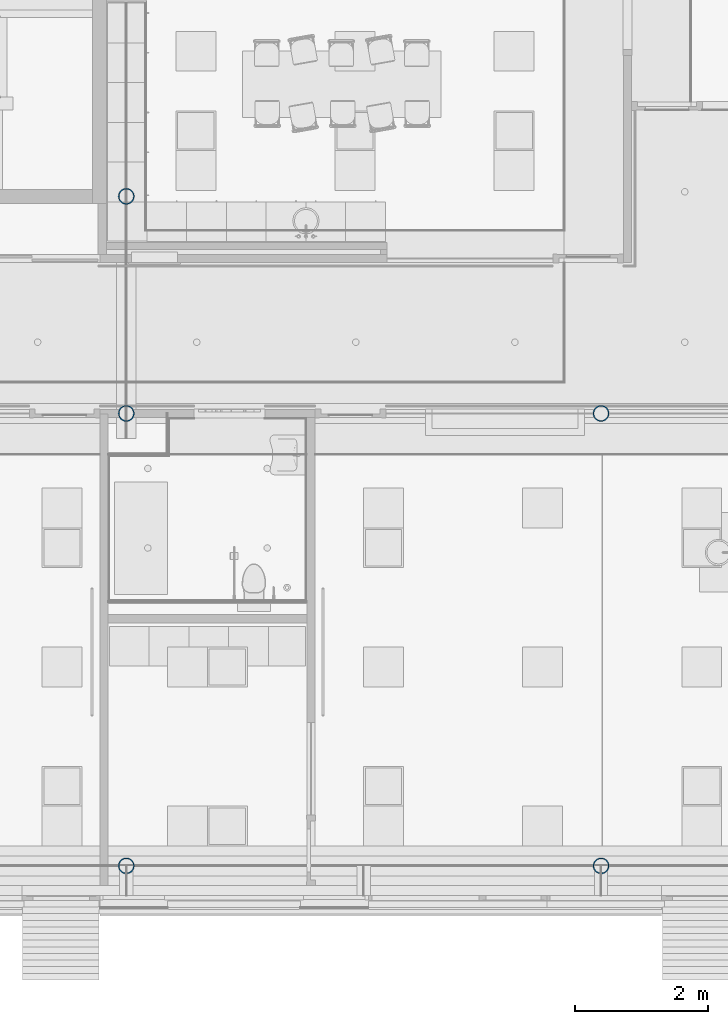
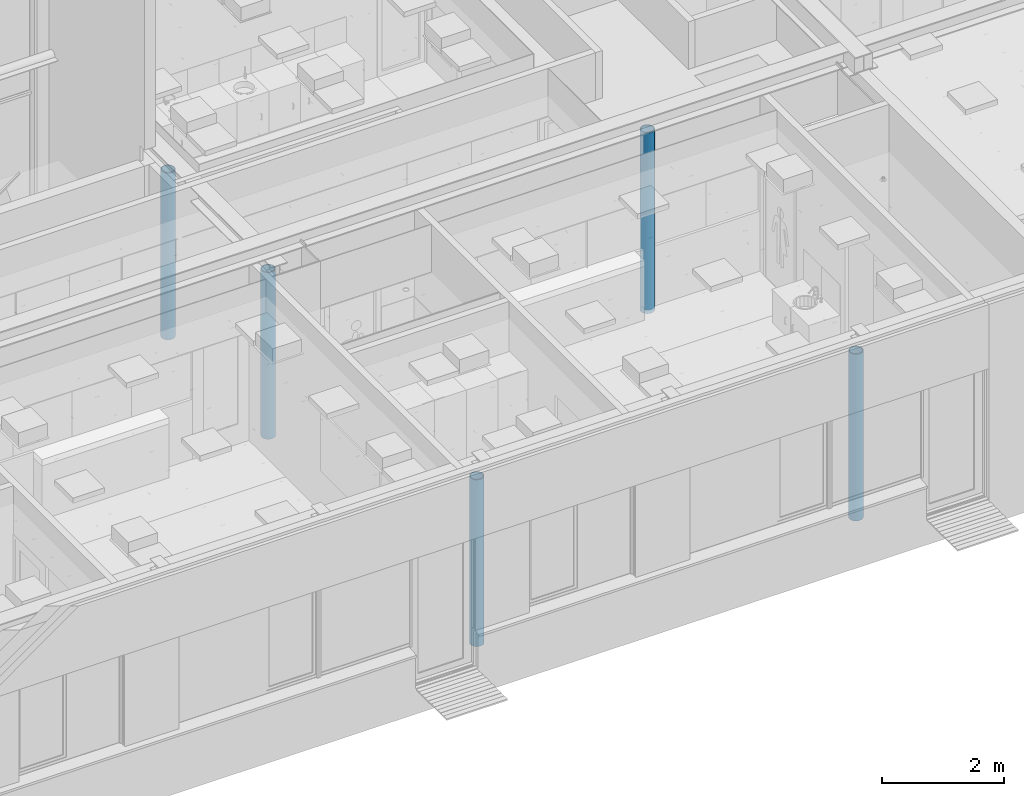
# One storey, part 13 of 347: 5 columns.
"""IFC2X3 building model written with IfcOpenShell, lengths in millimetres."""

from ifc_helpers import new_model, entity, si_unit, converted_unit, derived_unit, money_unit, direction, frame, origin_with_axes, place, context, subcontext, project, spatial, faceted_brep, material, type_object, element, save


model = new_model("IFC2X3")

# Units and contexts
model_context = context("Model", 3, precision=0.01, world=origin_with_axes(), true_north=direction((0.0, 1.0)))
plan_context = context("Plan", 3, precision=0.01, world=origin_with_axes(), true_north=direction((0.0, 1.0)))
body_context = subcontext(model_context, "Body", "Model", "MODEL_VIEW")
ifc_project = project(units=[si_unit("LENGTHUNIT", "METRE", prefix="MILLI"), si_unit("AREAUNIT", "SQUARE_METRE"), si_unit("VOLUMEUNIT", "CUBIC_METRE"), converted_unit("PLANEANGLEUNIT", "DEGREE", entity("IfcPlaneAngleMeasure", 0.0174532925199), si_unit("PLANEANGLEUNIT", "RADIAN"), dimensions=[0, 0, 0, 0, 0, 0, 0]), money_unit("EUR"), converted_unit("TIMEUNIT", "Year", entity("IfcTimeMeasure", 31556926.0), si_unit("TIMEUNIT", "SECOND"), dimensions=[0, 0, 1, 0, 0, 0, 0]), si_unit("MASSUNIT", "GRAM", prefix="KILO"), si_unit("THERMODYNAMICTEMPERATUREUNIT", "DEGREE_CELSIUS"), si_unit("LUMINOUSINTENSITYUNIT", "LUMEN"), si_unit("ENERGYUNIT", "JOULE", prefix="MEGA"), derived_unit("THERMALCONDUCTANCEUNIT", [(si_unit("POWERUNIT", "WATT"), 1), (si_unit("LENGTHUNIT", "METRE"), -1), (si_unit("THERMODYNAMICTEMPERATUREUNIT", "KELVIN"), -1)]), derived_unit("SPECIFICHEATCAPACITYUNIT", [(si_unit("ENERGYUNIT", "JOULE"), 1), (si_unit("MASSUNIT", "GRAM", prefix="KILO"), -1), (si_unit("THERMODYNAMICTEMPERATUREUNIT", "KELVIN"), -1)]), derived_unit("MASSDENSITYUNIT", [(si_unit("MASSUNIT", "GRAM", prefix="KILO"), 1), (si_unit("VOLUMEUNIT", "CUBIC_METRE"), -1)])], contexts=[model_context, plan_context])

# Site, building, storey
site_placement = place(None, origin_with_axes())
site = spatial("IfcSite", under=ifc_project, at=site_placement, Name="Site", CompositionType="ELEMENT")
building_placement = place(site_placement, origin_with_axes())
building = spatial("IfcBuilding", under=site, at=building_placement, Name="Naam gebouw", CompositionType="ELEMENT")
storey_placement = place(building_placement, origin_with_axes())
storey = spatial("IfcBuildingStorey", under=building, at=storey_placement, Name="begane grond", CompositionType="ELEMENT", Elevation=0.0)

# Columns
ifc_material = material(Name="Metaal - Staal C wit")
column_type = type_object("IfcColumnType", Name="Lucht D245", PredefinedType="COLUMN")
column_1_placement = place(storey_placement, frame((24575.0, 12125.0, -70.0), z_axis=(0.0, 0.0, 1.0), x_axis=(1.0, 0.0, 0.0)))
element("IfcColumn", 1, at=column_1_placement, inside=storey, type_object=column_type, material=ifc_material, Name="28_kolom ø 273mm", ObjectType="COLUMN", context=body_context, shape_type="Brep", body=[
    faceted_brep([(27.8124515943, 102.5, 1070.0), (27.4995235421, 102.629619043, 1070.0), (27.4995235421, 102.629619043, 0.0), (53.125, 92.0151991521, 0.0), (53.125, 92.0151991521, 3330.0), (27.4995235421, 102.629619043, 3330.0), (27.4995235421, 102.629619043, 1270.0), (27.8124515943, 102.5, 1270.0), (65.2067587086, 102.5, 1070.0), (53.0422871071, 110.143444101, 1070.0), (27.2031841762, 119.184937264, 1070.0), (0.0, 122.25, 1070.0), (-27.2031841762, 119.184937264, 1070.0), (-53.0422871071, 110.143444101, 1070.0), (-65.2067587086, 102.5, 1070.0), (-27.8124515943, 102.5, 1070.0), (-27.4995235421, 102.629619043, 1070.0), (0.0, 106.25, 1070.0), (0.0, 106.25, 0.0), (-119.184937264, -27.2031841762, 0.0), (-122.25, 0.0, 0.0), (-119.184937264, 27.2031841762, 0.0), (-110.143444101, 53.0422871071, 0.0), (-95.5788987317, 76.2216282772, 0.0), (-76.2216282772, 95.5788987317, 0.0), (-53.0422871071, 110.143444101, 0.0), (-27.2031841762, 119.184937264, 0.0), (0.0, 122.25, 0.0), (27.2031841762, 119.184937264, 0.0), (53.0422871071, 110.143444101, 0.0), (76.2216282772, 95.5788987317, 0.0), (95.5788987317, 76.2216282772, 0.0), (110.143444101, 53.0422871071, 0.0), (119.184937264, 27.2031841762, 0.0), (122.25, 0.0, 0.0), (119.184937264, -27.2031841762, 0.0), (110.143444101, -53.0422871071, 0.0), (95.5788987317, -76.2216282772, 0.0), (76.2216282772, -95.5788987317, 0.0), (53.0422871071, -110.143444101, 0.0), (27.2031841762, -119.184937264, 0.0), (0.0, -122.25, 0.0), (-27.2031841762, -119.184937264, 0.0), (-53.0422871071, -110.143444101, 0.0), (-76.2216282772, -95.5788987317, 0.0), (-95.5788987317, -76.2216282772, 0.0), (-110.143444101, -53.0422871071, 0.0), (-102.629619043, 27.4995235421, 0.0), (-106.25, 0.0, 0.0), (-102.629619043, -27.4995235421, 0.0), (-92.0151991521, -53.125, 0.0), (-75.1300955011, -75.1300955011, 0.0), (-53.125, -92.0151991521, 0.0), (-27.4995235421, -102.629619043, 0.0), (0.0, -106.25, 0.0), (27.4995235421, -102.629619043, 0.0), (53.125, -92.0151991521, 0.0), (75.1300955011, -75.1300955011, 0.0), (92.0151991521, -53.125, 0.0), (102.629619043, -27.4995235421, 0.0), (106.25, 0.0, 0.0), (102.629619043, 27.4995235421, 0.0), (92.0151991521, 53.125, 0.0), (75.1300955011, 75.1300955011, 0.0), (-27.4995235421, 102.629619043, 0.0), (-53.125, 92.0151991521, 0.0), (-75.1300955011, 75.1300955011, 0.0), (-92.0151991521, 53.125, 0.0), (75.1300955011, 75.1300955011, 3330.0), (-119.184937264, 27.2031841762, 3330.0), (-122.25, 0.0, 3330.0), (-119.184937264, -27.2031841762, 3330.0), (-110.143444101, -53.0422871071, 3330.0), (-95.5788987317, -76.2216282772, 3330.0), (-76.2216282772, -95.5788987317, 3330.0), (-53.0422871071, -110.143444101, 3330.0), (-27.2031841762, -119.184937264, 3330.0), (0.0, -122.25, 3330.0), (27.2031841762, -119.184937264, 3330.0), (53.0422871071, -110.143444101, 3330.0), (76.2216282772, -95.5788987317, 3330.0), (95.5788987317, -76.2216282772, 3330.0), (110.143444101, -53.0422871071, 3330.0), (119.184937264, -27.2031841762, 3330.0), (122.25, 0.0, 3330.0), (119.184937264, 27.2031841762, 3330.0), (110.143444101, 53.0422871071, 3330.0), (95.5788987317, 76.2216282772, 3330.0), (76.2216282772, 95.5788987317, 3330.0), (53.0422871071, 110.143444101, 3330.0), (27.2031841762, 119.184937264, 3330.0), (0.0, 122.25, 3330.0), (-27.2031841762, 119.184937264, 3330.0), (-53.0422871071, 110.143444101, 3330.0), (-76.2216282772, 95.5788987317, 3330.0), (-95.5788987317, 76.2216282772, 3330.0), (-110.143444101, 53.0422871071, 3330.0), (-102.629619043, -27.4995235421, 3330.0), (-106.25, 0.0, 3330.0), (-102.629619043, 27.4995235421, 3330.0), (-92.0151991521, 53.125, 3330.0), (-75.1300955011, 75.1300955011, 3330.0), (-53.125, 92.0151991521, 3330.0), (-27.4995235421, 102.629619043, 3330.0), (0.0, 106.25, 3330.0), (92.0151991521, 53.125, 3330.0), (102.629619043, 27.4995235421, 3330.0), (106.25, 0.0, 3330.0), (102.629619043, -27.4995235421, 3330.0), (92.0151991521, -53.125, 3330.0), (75.1300955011, -75.1300955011, 3330.0), (53.125, -92.0151991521, 3330.0), (27.4995235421, -102.629619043, 3330.0), (0.0, -106.25, 3330.0), (-27.4995235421, -102.629619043, 3330.0), (-53.125, -92.0151991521, 3330.0), (-75.1300955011, -75.1300955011, 3330.0), (-92.0151991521, -53.125, 3330.0), (0.0, 106.25, 1270.0), (53.0422871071, 110.143444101, 1270.0), (65.2067587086, 102.5, 1270.0), (-27.4995235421, 102.629619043, 1270.0), (-27.8124515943, 102.5, 1270.0), (-65.2067587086, 102.5, 1270.0), (-53.0422871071, 110.143444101, 1270.0), (-27.2031841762, 119.184937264, 1270.0), (0.0, 122.25, 1270.0), (27.2031841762, 119.184937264, 1270.0)], [[[0, 1, 2, 3, 4, 5, 6, 7]], [[8, 9, 10, 11, 12, 13, 14, 15, 16, 17, 1, 0]], [[1, 17, 18, 2]], [[19, 20, 21, 22, 23, 24, 25, 26, 27, 28, 29, 30, 31, 32, 33, 34, 35, 36, 37, 38, 39, 40, 41, 42, 43, 44, 45, 46], [47, 48, 49, 50, 51, 52, 53, 54, 55, 56, 57, 58, 59, 60, 61, 62, 63, 3, 2, 18, 64, 65, 66, 67]], [[4, 3, 63, 68]], [[69, 70, 71, 72, 73, 74, 75, 76, 77, 78, 79, 80, 81, 82, 83, 84, 85, 86, 87, 88, 89, 90, 91, 92, 93, 94, 95, 96], [97, 98, 99, 100, 101, 102, 103, 104, 5, 4, 68, 105, 106, 107, 108, 109, 110, 111, 112, 113, 114, 115, 116, 117]], [[118, 6, 5, 104]], [[119, 120, 7, 6, 118, 121, 122, 123, 124, 125, 126, 127]], [[120, 8, 0, 7]], [[9, 8, 120, 119, 89, 88, 30, 29]], [[10, 9, 29, 28]], [[11, 10, 28, 27]], [[12, 11, 27, 26]], [[13, 12, 26, 25]], [[14, 13, 25, 24, 94, 93, 124, 123]], [[122, 15, 14, 123]], [[122, 121, 103, 102, 65, 64, 16, 15]], [[17, 16, 64, 18]], [[70, 20, 19, 71]], [[69, 21, 20, 70]], [[96, 22, 21, 69]], [[95, 23, 22, 96]], [[94, 24, 23, 95]], [[87, 31, 30, 88]], [[86, 32, 31, 87]], [[85, 33, 32, 86]], [[84, 34, 33, 85]], [[83, 35, 34, 84]], [[82, 36, 35, 83]], [[81, 37, 36, 82]], [[80, 38, 37, 81]], [[79, 39, 38, 80]], [[78, 40, 39, 79]], [[77, 41, 40, 78]], [[76, 42, 41, 77]], [[75, 43, 42, 76]], [[74, 44, 43, 75]], [[73, 45, 44, 74]], [[72, 46, 45, 73]], [[71, 19, 46, 72]], [[98, 48, 47, 99]], [[97, 49, 48, 98]], [[117, 50, 49, 97]], [[116, 51, 50, 117]], [[115, 52, 51, 116]], [[114, 53, 52, 115]], [[113, 54, 53, 114]], [[112, 55, 54, 113]], [[111, 56, 55, 112]], [[110, 57, 56, 111]], [[109, 58, 57, 110]], [[108, 59, 58, 109]], [[107, 60, 59, 108]], [[106, 61, 60, 107]], [[105, 62, 61, 106]], [[68, 63, 62, 105]], [[101, 66, 65, 102]], [[100, 67, 66, 101]], [[99, 47, 67, 100]], [[119, 127, 90, 89]], [[127, 126, 91, 90]], [[126, 125, 92, 91]], [[125, 124, 93, 92]], [[121, 118, 104, 103]]]),
])
column_2_placement = place(storey_placement, frame((31737.5, 12125.0, -70.0), z_axis=(0.0, 0.0, 1.0), x_axis=(1.0, 0.0, 0.0)))
element("IfcColumn", 2, at=column_2_placement, inside=storey, type_object=column_type, material=ifc_material, Name="28_kolom ø 273mm", ObjectType="COLUMN", context=body_context, shape_type="Brep", body=[
    faceted_brep([(27.8124515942, 102.5, 1070.0), (27.4995235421, 102.629619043, 1070.0), (27.4995235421, 102.629619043, 0.0), (53.125, 92.0151991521, 0.0), (53.125, 92.0151991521, 3610.0), (27.4995235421, 102.629619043, 3610.0), (27.4995235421, 102.629619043, 1270.0), (27.8124515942, 102.5, 1270.0), (65.2067587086, 102.5, 1070.0), (53.0422871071, 110.143444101, 1070.0), (27.2031841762, 119.184937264, 1070.0), (0.0, 122.25, 1070.0), (-27.2031841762, 119.184937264, 1070.0), (-53.0422871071, 110.143444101, 1070.0), (-65.2067587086, 102.5, 1070.0), (-27.8124515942, 102.5, 1070.0), (-27.4995235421, 102.629619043, 1070.0), (0.0, 106.25, 1070.0), (0.0, 106.25, 0.0), (110.143444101, 53.0422871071, 0.0), (119.184937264, 27.2031841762, 0.0), (122.25, 0.0, 0.0), (119.184937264, -27.2031841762, 0.0), (110.143444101, -53.0422871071, 0.0), (95.5788987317, -76.2216282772, 0.0), (76.2216282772, -95.5788987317, 0.0), (53.0422871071, -110.143444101, 0.0), (27.2031841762, -119.184937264, 0.0), (0.0, -122.25, 0.0), (-27.2031841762, -119.184937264, 0.0), (-53.0422871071, -110.143444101, 0.0), (-76.2216282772, -95.5788987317, 0.0), (-95.5788987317, -76.2216282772, 0.0), (-110.143444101, -53.0422871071, 0.0), (-119.184937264, -27.2031841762, 0.0), (-122.25, 0.0, 0.0), (-119.184937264, 27.2031841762, 0.0), (-110.143444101, 53.0422871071, 0.0), (-95.5788987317, 76.2216282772, 0.0), (-76.2216282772, 95.5788987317, 0.0), (-53.0422871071, 110.143444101, 0.0), (-27.2031841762, 119.184937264, 0.0), (0.0, 122.25, 0.0), (27.2031841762, 119.184937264, 0.0), (53.0422871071, 110.143444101, 0.0), (76.2216282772, 95.5788987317, 0.0), (95.5788987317, 76.2216282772, 0.0), (92.0151991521, -53.125, 0.0), (102.629619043, -27.4995235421, 0.0), (106.25, 0.0, 0.0), (102.629619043, 27.4995235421, 0.0), (92.0151991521, 53.125, 0.0), (75.1300955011, 75.1300955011, 0.0), (-27.4995235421, 102.629619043, 0.0), (-53.125, 92.0151991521, 0.0), (-75.1300955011, 75.1300955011, 0.0), (-92.0151991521, 53.125, 0.0), (-102.629619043, 27.4995235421, 0.0), (-106.25, 0.0, 0.0), (-102.629619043, -27.4995235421, 0.0), (-92.0151991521, -53.125, 0.0), (-75.1300955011, -75.1300955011, 0.0), (-53.125, -92.0151991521, 0.0), (-27.4995235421, -102.629619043, 0.0), (0.0, -106.25, 0.0), (27.4995235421, -102.629619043, 0.0), (53.125, -92.0151991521, 0.0), (75.1300955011, -75.1300955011, 0.0), (75.1300955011, 75.1300955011, 3610.0), (122.25, 0.0, 3610.0), (119.184937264, 27.2031841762, 3610.0), (110.143444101, 53.0422871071, 3610.0), (95.5788987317, 76.2216282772, 3610.0), (76.2216282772, 95.5788987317, 3610.0), (53.0422871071, 110.143444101, 3610.0), (27.2031841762, 119.184937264, 3610.0), (0.0, 122.25, 3610.0), (-27.2031841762, 119.184937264, 3610.0), (-53.0422871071, 110.143444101, 3610.0), (-76.2216282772, 95.5788987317, 3610.0), (-95.5788987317, 76.2216282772, 3610.0), (-110.143444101, 53.0422871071, 3610.0), (-119.184937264, 27.2031841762, 3610.0), (-122.25, 0.0, 3610.0), (-119.184937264, -27.2031841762, 3610.0), (-110.143444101, -53.0422871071, 3610.0), (-95.5788987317, -76.2216282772, 3610.0), (-76.2216282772, -95.5788987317, 3610.0), (-53.0422871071, -110.143444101, 3610.0), (-27.2031841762, -119.184937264, 3610.0), (0.0, -122.25, 3610.0), (27.2031841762, -119.184937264, 3610.0), (53.0422871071, -110.143444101, 3610.0), (76.2216282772, -95.5788987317, 3610.0), (95.5788987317, -76.2216282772, 3610.0), (110.143444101, -53.0422871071, 3610.0), (119.184937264, -27.2031841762, 3610.0), (106.25, 0.0, 3610.0), (102.629619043, -27.4995235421, 3610.0), (92.0151991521, -53.125, 3610.0), (75.1300955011, -75.1300955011, 3610.0), (53.125, -92.0151991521, 3610.0), (27.4995235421, -102.629619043, 3610.0), (0.0, -106.25, 3610.0), (-27.4995235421, -102.629619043, 3610.0), (-53.125, -92.0151991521, 3610.0), (-75.1300955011, -75.1300955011, 3610.0), (-92.0151991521, -53.125, 3610.0), (-102.629619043, -27.4995235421, 3610.0), (-106.25, 0.0, 3610.0), (-102.629619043, 27.4995235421, 3610.0), (-92.0151991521, 53.125, 3610.0), (-75.1300955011, 75.1300955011, 3610.0), (-53.125, 92.0151991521, 3610.0), (-27.4995235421, 102.629619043, 3610.0), (0.0, 106.25, 3610.0), (92.0151991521, 53.125, 3610.0), (102.629619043, 27.4995235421, 3610.0), (0.0, 106.25, 1270.0), (53.0422871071, 110.143444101, 1270.0), (65.2067587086, 102.5, 1270.0), (-27.4995235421, 102.629619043, 1270.0), (-27.8124515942, 102.5, 1270.0), (-65.2067587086, 102.5, 1270.0), (-53.0422871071, 110.143444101, 1270.0), (-27.2031841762, 119.184937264, 1270.0), (0.0, 122.25, 1270.0), (27.2031841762, 119.184937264, 1270.0)], [[[0, 1, 2, 3, 4, 5, 6, 7]], [[8, 9, 10, 11, 12, 13, 14, 15, 16, 17, 1, 0]], [[1, 17, 18, 2]], [[19, 20, 21, 22, 23, 24, 25, 26, 27, 28, 29, 30, 31, 32, 33, 34, 35, 36, 37, 38, 39, 40, 41, 42, 43, 44, 45, 46], [47, 48, 49, 50, 51, 52, 3, 2, 18, 53, 54, 55, 56, 57, 58, 59, 60, 61, 62, 63, 64, 65, 66, 67]], [[4, 3, 52, 68]], [[69, 70, 71, 72, 73, 74, 75, 76, 77, 78, 79, 80, 81, 82, 83, 84, 85, 86, 87, 88, 89, 90, 91, 92, 93, 94, 95, 96], [97, 98, 99, 100, 101, 102, 103, 104, 105, 106, 107, 108, 109, 110, 111, 112, 113, 114, 115, 5, 4, 68, 116, 117]], [[118, 6, 5, 115]], [[119, 120, 7, 6, 118, 121, 122, 123, 124, 125, 126, 127]], [[120, 8, 0, 7]], [[9, 8, 120, 119, 74, 73, 45, 44]], [[10, 9, 44, 43]], [[11, 10, 43, 42]], [[12, 11, 42, 41]], [[13, 12, 41, 40]], [[14, 13, 40, 39, 79, 78, 124, 123]], [[122, 15, 14, 123]], [[122, 121, 114, 113, 54, 53, 16, 15]], [[17, 16, 53, 18]], [[70, 20, 19, 71]], [[69, 21, 20, 70]], [[96, 22, 21, 69]], [[95, 23, 22, 96]], [[94, 24, 23, 95]], [[93, 25, 24, 94]], [[92, 26, 25, 93]], [[91, 27, 26, 92]], [[90, 28, 27, 91]], [[89, 29, 28, 90]], [[88, 30, 29, 89]], [[87, 31, 30, 88]], [[86, 32, 31, 87]], [[85, 33, 32, 86]], [[84, 34, 33, 85]], [[83, 35, 34, 84]], [[82, 36, 35, 83]], [[81, 37, 36, 82]], [[80, 38, 37, 81]], [[79, 39, 38, 80]], [[72, 46, 45, 73]], [[71, 19, 46, 72]], [[98, 48, 47, 99]], [[97, 49, 48, 98]], [[117, 50, 49, 97]], [[116, 51, 50, 117]], [[68, 52, 51, 116]], [[112, 55, 54, 113]], [[111, 56, 55, 112]], [[110, 57, 56, 111]], [[109, 58, 57, 110]], [[108, 59, 58, 109]], [[107, 60, 59, 108]], [[106, 61, 60, 107]], [[105, 62, 61, 106]], [[104, 63, 62, 105]], [[103, 64, 63, 104]], [[102, 65, 64, 103]], [[101, 66, 65, 102]], [[100, 67, 66, 101]], [[99, 47, 67, 100]], [[119, 127, 75, 74]], [[127, 126, 76, 75]], [[126, 125, 77, 76]], [[125, 124, 78, 77]], [[121, 118, 115, 114]]]),
])
column_3_placement = place(storey_placement, frame((31737.5, 5300.0, -70.0), z_axis=(0.0, 0.0, 1.0), x_axis=(1.0, 0.0, 0.0)))
element("IfcColumn", 3, at=column_3_placement, inside=storey, type_object=column_type, material=ifc_material, Name="28_kolom ø 273mm", ObjectType="COLUMN", context=body_context, shape_type="Brep", body=[
    faceted_brep([(119.184937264, 27.2031841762, 0.0), (110.143444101, 53.0422871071, 0.0), (110.143444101, 53.0422871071, 3330.0), (119.184937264, 27.2031841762, 3330.0), (122.25, 0.0, 0.0), (119.184937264, -27.2031841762, 0.0), (110.143444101, -53.0422871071, 0.0), (95.5788987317, -76.2216282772, 0.0), (76.2216282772, -95.5788987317, 0.0), (53.0422871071, -110.143444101, 0.0), (27.2031841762, -119.184937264, 0.0), (0.0, -122.25, 0.0), (-27.2031841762, -119.184937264, 0.0), (-53.0422871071, -110.143444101, 0.0), (-76.2216282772, -95.5788987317, 0.0), (-95.5788987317, -76.2216282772, 0.0), (-110.143444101, -53.0422871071, 0.0), (-119.184937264, -27.2031841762, 0.0), (-122.25, 0.0, 0.0), (-119.184937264, 27.2031841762, 0.0), (-110.143444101, 53.0422871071, 0.0), (-95.5788987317, 76.2216282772, 0.0), (-76.2216282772, 95.5788987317, 0.0), (-53.0422871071, 110.143444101, 0.0), (-27.2031841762, 119.184937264, 0.0), (0.0, 122.25, 0.0), (27.2031841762, 119.184937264, 0.0), (53.0422871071, 110.143444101, 0.0), (76.2216282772, 95.5788987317, 0.0), (95.5788987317, 76.2216282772, 0.0), (102.629619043, -27.4995235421, 0.0), (106.25, 0.0, 0.0), (102.629619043, 27.4995235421, 0.0), (92.0151991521, 53.125, 0.0), (75.1300955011, 75.1300955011, 0.0), (53.125, 92.0151991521, 0.0), (27.4995235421, 102.629619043, 0.0), (0.0, 106.25, 0.0), (-27.4995235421, 102.629619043, 0.0), (-53.125, 92.0151991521, 0.0), (-75.1300955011, 75.1300955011, 0.0), (-92.0151991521, 53.125, 0.0), (-102.629619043, 27.4995235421, 0.0), (-106.25, 0.0, 0.0), (-102.629619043, -27.4995235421, 0.0), (-92.0151991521, -53.125, 0.0), (-75.1300955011, -75.1300955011, 0.0), (-53.125, -92.0151991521, 0.0), (-27.4995235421, -102.629619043, 0.0), (0.0, -106.25, 0.0), (27.4995235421, -102.629619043, 0.0), (53.125, -92.0151991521, 0.0), (75.1300955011, -75.1300955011, 0.0), (92.0151991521, -53.125, 0.0), (95.5788987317, 76.2216282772, 3330.0), (76.2216282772, 95.5788987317, 3330.0), (53.0422871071, 110.143444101, 3330.0), (27.2031841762, 119.184937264, 3330.0), (0.0, 122.25, 3330.0), (-27.2031841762, 119.184937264, 3330.0), (-53.0422871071, 110.143444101, 3330.0), (-76.2216282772, 95.5788987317, 3330.0), (-95.5788987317, 76.2216282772, 3330.0), (-110.143444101, 53.0422871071, 3330.0), (-119.184937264, 27.2031841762, 3330.0), (-122.25, 0.0, 3330.0), (-119.184937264, -27.2031841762, 3330.0), (-110.143444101, -53.0422871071, 3330.0), (-95.5788987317, -76.2216282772, 3330.0), (-76.2216282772, -95.5788987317, 3330.0), (-53.0422871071, -110.143444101, 3330.0), (-27.2031841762, -119.184937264, 3330.0), (0.0, -122.25, 3330.0), (27.2031841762, -119.184937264, 3330.0), (53.0422871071, -110.143444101, 3330.0), (76.2216282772, -95.5788987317, 3330.0), (95.5788987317, -76.2216282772, 3330.0), (110.143444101, -53.0422871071, 3330.0), (119.184937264, -27.2031841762, 3330.0), (122.25, 0.0, 3330.0), (102.629619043, -27.4995235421, 3330.0), (92.0151991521, -53.125, 3330.0), (75.1300955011, -75.1300955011, 3330.0), (53.125, -92.0151991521, 3330.0), (27.4995235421, -102.629619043, 3330.0), (0.0, -106.25, 3330.0), (-27.4995235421, -102.629619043, 3330.0), (-53.125, -92.0151991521, 3330.0), (-75.1300955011, -75.1300955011, 3330.0), (-92.0151991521, -53.125, 3330.0), (-102.629619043, -27.4995235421, 3330.0), (-106.25, 0.0, 3330.0), (-102.629619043, 27.4995235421, 3330.0), (-92.0151991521, 53.125, 3330.0), (-75.1300955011, 75.1300955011, 3330.0), (-53.125, 92.0151991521, 3330.0), (-27.4995235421, 102.629619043, 3330.0), (0.0, 106.25, 3330.0), (27.4995235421, 102.629619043, 3330.0), (53.125, 92.0151991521, 3330.0), (75.1300955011, 75.1300955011, 3330.0), (92.0151991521, 53.125, 3330.0), (102.629619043, 27.4995235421, 3330.0), (106.25, 0.0, 3330.0)], [[[0, 1, 2, 3]], [[0, 4, 5, 6, 7, 8, 9, 10, 11, 12, 13, 14, 15, 16, 17, 18, 19, 20, 21, 22, 23, 24, 25, 26, 27, 28, 29, 1], [30, 31, 32, 33, 34, 35, 36, 37, 38, 39, 40, 41, 42, 43, 44, 45, 46, 47, 48, 49, 50, 51, 52, 53]], [[1, 29, 54, 2]], [[3, 2, 54, 55, 56, 57, 58, 59, 60, 61, 62, 63, 64, 65, 66, 67, 68, 69, 70, 71, 72, 73, 74, 75, 76, 77, 78, 79], [80, 81, 82, 83, 84, 85, 86, 87, 88, 89, 90, 91, 92, 93, 94, 95, 96, 97, 98, 99, 100, 101, 102, 103]], [[4, 0, 3, 79]], [[5, 4, 79, 78]], [[6, 5, 78, 77]], [[7, 6, 77, 76]], [[8, 7, 76, 75]], [[9, 8, 75, 74]], [[10, 9, 74, 73]], [[11, 10, 73, 72]], [[12, 11, 72, 71]], [[13, 12, 71, 70]], [[14, 13, 70, 69]], [[15, 14, 69, 68]], [[16, 15, 68, 67]], [[17, 16, 67, 66]], [[18, 17, 66, 65]], [[19, 18, 65, 64]], [[20, 19, 64, 63]], [[21, 20, 63, 62]], [[22, 21, 62, 61]], [[23, 22, 61, 60]], [[24, 23, 60, 59]], [[25, 24, 59, 58]], [[26, 25, 58, 57]], [[27, 26, 57, 56]], [[28, 27, 56, 55]], [[29, 28, 55, 54]], [[31, 30, 80, 103]], [[32, 31, 103, 102]], [[33, 32, 102, 101]], [[34, 33, 101, 100]], [[35, 34, 100, 99]], [[36, 35, 99, 98]], [[37, 36, 98, 97]], [[38, 37, 97, 96]], [[39, 38, 96, 95]], [[40, 39, 95, 94]], [[41, 40, 94, 93]], [[42, 41, 93, 92]], [[43, 42, 92, 91]], [[44, 43, 91, 90]], [[45, 44, 90, 89]], [[46, 45, 89, 88]], [[47, 46, 88, 87]], [[48, 47, 87, 86]], [[49, 48, 86, 85]], [[50, 49, 85, 84]], [[51, 50, 84, 83]], [[52, 51, 83, 82]], [[53, 52, 82, 81]], [[30, 53, 81, 80]]]),
])
column_4_placement = place(storey_placement, frame((24575.0, 5300.0, -70.0), z_axis=(0.0, 0.0, 1.0), x_axis=(1.0, 0.0, 0.0)))
element("IfcColumn", 4, at=column_4_placement, inside=storey, type_object=column_type, material=ifc_material, Name="28_kolom ø 273mm", ObjectType="COLUMN", context=body_context, shape_type="Brep", body=[
    faceted_brep([(-122.25, 0.0, 0.0), (-119.184937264, -27.2031841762, 0.0), (-119.184937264, -27.2031841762, 3330.0), (-122.25, 0.0, 3330.0), (-119.184937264, 27.2031841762, 0.0), (-110.143444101, 53.0422871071, 0.0), (-95.5788987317, 76.2216282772, 0.0), (-76.2216282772, 95.5788987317, 0.0), (-53.0422871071, 110.143444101, 0.0), (-27.2031841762, 119.184937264, 0.0), (0.0, 122.25, 0.0), (27.2031841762, 119.184937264, 0.0), (53.0422871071, 110.143444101, 0.0), (76.2216282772, 95.5788987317, 0.0), (95.5788987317, 76.2216282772, 0.0), (110.143444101, 53.0422871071, 0.0), (119.184937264, 27.2031841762, 0.0), (122.25, 0.0, 0.0), (119.184937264, -27.2031841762, 0.0), (110.143444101, -53.0422871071, 0.0), (95.5788987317, -76.2216282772, 0.0), (76.2216282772, -95.5788987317, 0.0), (53.0422871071, -110.143444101, 0.0), (27.2031841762, -119.184937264, 0.0), (0.0, -122.25, 0.0), (-27.2031841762, -119.184937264, 0.0), (-53.0422871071, -110.143444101, 0.0), (-76.2216282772, -95.5788987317, 0.0), (-95.5788987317, -76.2216282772, 0.0), (-110.143444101, -53.0422871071, 0.0), (-106.25, 0.0, 0.0), (-102.629619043, -27.4995235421, 0.0), (-92.0151991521, -53.125, 0.0), (-75.1300955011, -75.1300955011, 0.0), (-53.125, -92.0151991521, 0.0), (-27.4995235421, -102.629619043, 0.0), (0.0, -106.25, 0.0), (27.4995235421, -102.629619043, 0.0), (53.125, -92.0151991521, 0.0), (75.1300955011, -75.1300955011, 0.0), (92.0151991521, -53.125, 0.0), (102.629619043, -27.4995235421, 0.0), (106.25, 0.0, 0.0), (102.629619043, 27.4995235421, 0.0), (92.0151991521, 53.125, 0.0), (75.1300955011, 75.1300955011, 0.0), (53.125, 92.0151991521, 0.0), (27.4995235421, 102.629619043, 0.0), (0.0, 106.25, 0.0), (-27.4995235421, 102.629619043, 0.0), (-53.125, 92.0151991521, 0.0), (-75.1300955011, 75.1300955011, 0.0), (-92.0151991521, 53.125, 0.0), (-102.629619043, 27.4995235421, 0.0), (-110.143444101, -53.0422871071, 3330.0), (-95.5788987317, -76.2216282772, 3330.0), (-76.2216282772, -95.5788987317, 3330.0), (-53.0422871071, -110.143444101, 3330.0), (-27.2031841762, -119.184937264, 3330.0), (0.0, -122.25, 3330.0), (27.2031841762, -119.184937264, 3330.0), (53.0422871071, -110.143444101, 3330.0), (76.2216282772, -95.5788987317, 3330.0), (95.5788987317, -76.2216282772, 3330.0), (110.143444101, -53.0422871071, 3330.0), (119.184937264, -27.2031841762, 3330.0), (122.25, 0.0, 3330.0), (119.184937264, 27.2031841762, 3330.0), (110.143444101, 53.0422871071, 3330.0), (95.5788987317, 76.2216282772, 3330.0), (76.2216282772, 95.5788987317, 3330.0), (53.0422871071, 110.143444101, 3330.0), (27.2031841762, 119.184937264, 3330.0), (0.0, 122.25, 3330.0), (-27.2031841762, 119.184937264, 3330.0), (-53.0422871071, 110.143444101, 3330.0), (-76.2216282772, 95.5788987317, 3330.0), (-95.5788987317, 76.2216282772, 3330.0), (-110.143444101, 53.0422871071, 3330.0), (-119.184937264, 27.2031841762, 3330.0), (-106.25, 0.0, 3330.0), (-102.629619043, 27.4995235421, 3330.0), (-92.0151991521, 53.125, 3330.0), (-75.1300955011, 75.1300955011, 3330.0), (-53.125, 92.0151991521, 3330.0), (-27.4995235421, 102.629619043, 3330.0), (0.0, 106.25, 3330.0), (27.4995235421, 102.629619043, 3330.0), (53.125, 92.0151991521, 3330.0), (75.1300955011, 75.1300955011, 3330.0), (92.0151991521, 53.125, 3330.0), (102.629619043, 27.4995235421, 3330.0), (106.25, 0.0, 3330.0), (102.629619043, -27.4995235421, 3330.0), (92.0151991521, -53.125, 3330.0), (75.1300955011, -75.1300955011, 3330.0), (53.125, -92.0151991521, 3330.0), (27.4995235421, -102.629619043, 3330.0), (0.0, -106.25, 3330.0), (-27.4995235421, -102.629619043, 3330.0), (-53.125, -92.0151991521, 3330.0), (-75.1300955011, -75.1300955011, 3330.0), (-92.0151991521, -53.125, 3330.0), (-102.629619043, -27.4995235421, 3330.0)], [[[0, 1, 2, 3]], [[0, 4, 5, 6, 7, 8, 9, 10, 11, 12, 13, 14, 15, 16, 17, 18, 19, 20, 21, 22, 23, 24, 25, 26, 27, 28, 29, 1], [30, 31, 32, 33, 34, 35, 36, 37, 38, 39, 40, 41, 42, 43, 44, 45, 46, 47, 48, 49, 50, 51, 52, 53]], [[1, 29, 54, 2]], [[3, 2, 54, 55, 56, 57, 58, 59, 60, 61, 62, 63, 64, 65, 66, 67, 68, 69, 70, 71, 72, 73, 74, 75, 76, 77, 78, 79], [80, 81, 82, 83, 84, 85, 86, 87, 88, 89, 90, 91, 92, 93, 94, 95, 96, 97, 98, 99, 100, 101, 102, 103]], [[4, 0, 3, 79]], [[5, 4, 79, 78]], [[6, 5, 78, 77]], [[7, 6, 77, 76]], [[8, 7, 76, 75]], [[9, 8, 75, 74]], [[10, 9, 74, 73]], [[11, 10, 73, 72]], [[12, 11, 72, 71]], [[13, 12, 71, 70]], [[14, 13, 70, 69]], [[15, 14, 69, 68]], [[16, 15, 68, 67]], [[17, 16, 67, 66]], [[18, 17, 66, 65]], [[19, 18, 65, 64]], [[20, 19, 64, 63]], [[21, 20, 63, 62]], [[22, 21, 62, 61]], [[23, 22, 61, 60]], [[24, 23, 60, 59]], [[25, 24, 59, 58]], [[26, 25, 58, 57]], [[27, 26, 57, 56]], [[28, 27, 56, 55]], [[29, 28, 55, 54]], [[31, 30, 80, 103]], [[32, 31, 103, 102]], [[33, 32, 102, 101]], [[34, 33, 101, 100]], [[35, 34, 100, 99]], [[36, 35, 99, 98]], [[37, 36, 98, 97]], [[38, 37, 97, 96]], [[39, 38, 96, 95]], [[40, 39, 95, 94]], [[41, 40, 94, 93]], [[42, 41, 93, 92]], [[43, 42, 92, 91]], [[44, 43, 91, 90]], [[45, 44, 90, 89]], [[46, 45, 89, 88]], [[47, 46, 88, 87]], [[48, 47, 87, 86]], [[49, 48, 86, 85]], [[50, 49, 85, 84]], [[51, 50, 84, 83]], [[52, 51, 83, 82]], [[53, 52, 82, 81]], [[30, 53, 81, 80]]]),
])
column_5_placement = place(storey_placement, frame((24575.0, 15400.0, -70.0), z_axis=(0.0, 0.0, 1.0), x_axis=(1.0, 0.0, 0.0)))
element("IfcColumn", 5, at=column_5_placement, inside=storey, type_object=column_type, material=ifc_material, Name="28_kolom ø 273mm", ObjectType="COLUMN", context=body_context, shape_type="Brep", body=[
    faceted_brep([(-122.25, 0.0, 0.0), (-119.184937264, -27.2031841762, 0.0), (-119.184937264, -27.2031841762, 3330.0), (-122.25, 0.0, 3330.0), (-119.184937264, 27.2031841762, 0.0), (-110.143444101, 53.0422871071, 0.0), (-95.5788987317, 76.2216282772, 0.0), (-76.2216282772, 95.5788987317, 0.0), (-53.0422871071, 110.143444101, 0.0), (-27.2031841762, 119.184937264, 0.0), (0.0, 122.25, 0.0), (27.2031841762, 119.184937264, 0.0), (53.0422871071, 110.143444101, 0.0), (76.2216282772, 95.5788987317, 0.0), (95.5788987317, 76.2216282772, 0.0), (110.143444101, 53.0422871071, 0.0), (119.184937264, 27.2031841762, 0.0), (122.25, 0.0, 0.0), (119.184937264, -27.2031841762, 0.0), (110.143444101, -53.0422871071, 0.0), (95.5788987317, -76.2216282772, 0.0), (76.2216282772, -95.5788987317, 0.0), (53.0422871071, -110.143444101, 0.0), (27.2031841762, -119.184937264, 0.0), (0.0, -122.25, 0.0), (-27.2031841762, -119.184937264, 0.0), (-53.0422871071, -110.143444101, 0.0), (-76.2216282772, -95.5788987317, 0.0), (-95.5788987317, -76.2216282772, 0.0), (-110.143444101, -53.0422871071, 0.0), (-106.25, 0.0, 0.0), (-102.629619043, -27.4995235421, 0.0), (-92.0151991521, -53.125, 0.0), (-75.1300955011, -75.1300955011, 0.0), (-53.125, -92.0151991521, 0.0), (-27.4995235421, -102.629619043, 0.0), (0.0, -106.25, 0.0), (27.4995235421, -102.629619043, 0.0), (53.125, -92.0151991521, 0.0), (75.1300955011, -75.1300955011, 0.0), (92.0151991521, -53.125, 0.0), (102.629619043, -27.4995235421, 0.0), (106.25, 0.0, 0.0), (102.629619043, 27.4995235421, 0.0), (92.0151991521, 53.125, 0.0), (75.1300955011, 75.1300955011, 0.0), (53.125, 92.0151991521, 0.0), (27.4995235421, 102.629619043, 0.0), (0.0, 106.25, 0.0), (-27.4995235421, 102.629619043, 0.0), (-53.125, 92.0151991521, 0.0), (-75.1300955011, 75.1300955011, 0.0), (-92.0151991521, 53.125, 0.0), (-102.629619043, 27.4995235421, 0.0), (-110.143444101, -53.0422871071, 3330.0), (-95.5788987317, -76.2216282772, 3330.0), (-76.2216282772, -95.5788987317, 3330.0), (-53.0422871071, -110.143444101, 3330.0), (-27.2031841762, -119.184937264, 3330.0), (0.0, -122.25, 3330.0), (27.2031841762, -119.184937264, 3330.0), (53.0422871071, -110.143444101, 3330.0), (76.2216282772, -95.5788987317, 3330.0), (95.5788987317, -76.2216282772, 3330.0), (110.143444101, -53.0422871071, 3330.0), (119.184937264, -27.2031841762, 3330.0), (122.25, 0.0, 3330.0), (119.184937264, 27.2031841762, 3330.0), (110.143444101, 53.0422871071, 3330.0), (95.5788987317, 76.2216282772, 3330.0), (76.2216282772, 95.5788987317, 3330.0), (53.0422871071, 110.143444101, 3330.0), (27.2031841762, 119.184937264, 3330.0), (0.0, 122.25, 3330.0), (-27.2031841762, 119.184937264, 3330.0), (-53.0422871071, 110.143444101, 3330.0), (-76.2216282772, 95.5788987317, 3330.0), (-95.5788987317, 76.2216282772, 3330.0), (-110.143444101, 53.0422871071, 3330.0), (-119.184937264, 27.2031841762, 3330.0), (-106.25, 0.0, 3330.0), (-102.629619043, 27.4995235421, 3330.0), (-92.0151991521, 53.125, 3330.0), (-75.1300955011, 75.1300955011, 3330.0), (-53.125, 92.0151991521, 3330.0), (-27.4995235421, 102.629619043, 3330.0), (0.0, 106.25, 3330.0), (27.4995235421, 102.629619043, 3330.0), (53.125, 92.0151991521, 3330.0), (75.1300955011, 75.1300955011, 3330.0), (92.0151991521, 53.125, 3330.0), (102.629619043, 27.4995235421, 3330.0), (106.25, 0.0, 3330.0), (102.629619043, -27.4995235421, 3330.0), (92.0151991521, -53.125, 3330.0), (75.1300955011, -75.1300955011, 3330.0), (53.125, -92.0151991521, 3330.0), (27.4995235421, -102.629619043, 3330.0), (0.0, -106.25, 3330.0), (-27.4995235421, -102.629619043, 3330.0), (-53.125, -92.0151991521, 3330.0), (-75.1300955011, -75.1300955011, 3330.0), (-92.0151991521, -53.125, 3330.0), (-102.629619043, -27.4995235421, 3330.0)], [[[0, 1, 2, 3]], [[0, 4, 5, 6, 7, 8, 9, 10, 11, 12, 13, 14, 15, 16, 17, 18, 19, 20, 21, 22, 23, 24, 25, 26, 27, 28, 29, 1], [30, 31, 32, 33, 34, 35, 36, 37, 38, 39, 40, 41, 42, 43, 44, 45, 46, 47, 48, 49, 50, 51, 52, 53]], [[1, 29, 54, 2]], [[3, 2, 54, 55, 56, 57, 58, 59, 60, 61, 62, 63, 64, 65, 66, 67, 68, 69, 70, 71, 72, 73, 74, 75, 76, 77, 78, 79], [80, 81, 82, 83, 84, 85, 86, 87, 88, 89, 90, 91, 92, 93, 94, 95, 96, 97, 98, 99, 100, 101, 102, 103]], [[4, 0, 3, 79]], [[5, 4, 79, 78]], [[6, 5, 78, 77]], [[7, 6, 77, 76]], [[8, 7, 76, 75]], [[9, 8, 75, 74]], [[10, 9, 74, 73]], [[11, 10, 73, 72]], [[12, 11, 72, 71]], [[13, 12, 71, 70]], [[14, 13, 70, 69]], [[15, 14, 69, 68]], [[16, 15, 68, 67]], [[17, 16, 67, 66]], [[18, 17, 66, 65]], [[19, 18, 65, 64]], [[20, 19, 64, 63]], [[21, 20, 63, 62]], [[22, 21, 62, 61]], [[23, 22, 61, 60]], [[24, 23, 60, 59]], [[25, 24, 59, 58]], [[26, 25, 58, 57]], [[27, 26, 57, 56]], [[28, 27, 56, 55]], [[29, 28, 55, 54]], [[31, 30, 80, 103]], [[32, 31, 103, 102]], [[33, 32, 102, 101]], [[34, 33, 101, 100]], [[35, 34, 100, 99]], [[36, 35, 99, 98]], [[37, 36, 98, 97]], [[38, 37, 97, 96]], [[39, 38, 96, 95]], [[40, 39, 95, 94]], [[41, 40, 94, 93]], [[42, 41, 93, 92]], [[43, 42, 92, 91]], [[44, 43, 91, 90]], [[45, 44, 90, 89]], [[46, 45, 89, 88]], [[47, 46, 88, 87]], [[48, 47, 87, 86]], [[49, 48, 86, 85]], [[50, 49, 85, 84]], [[51, 50, 84, 83]], [[52, 51, 83, 82]], [[53, 52, 82, 81]], [[30, 53, 81, 80]]]),
])

save(model, "model.ifc")
